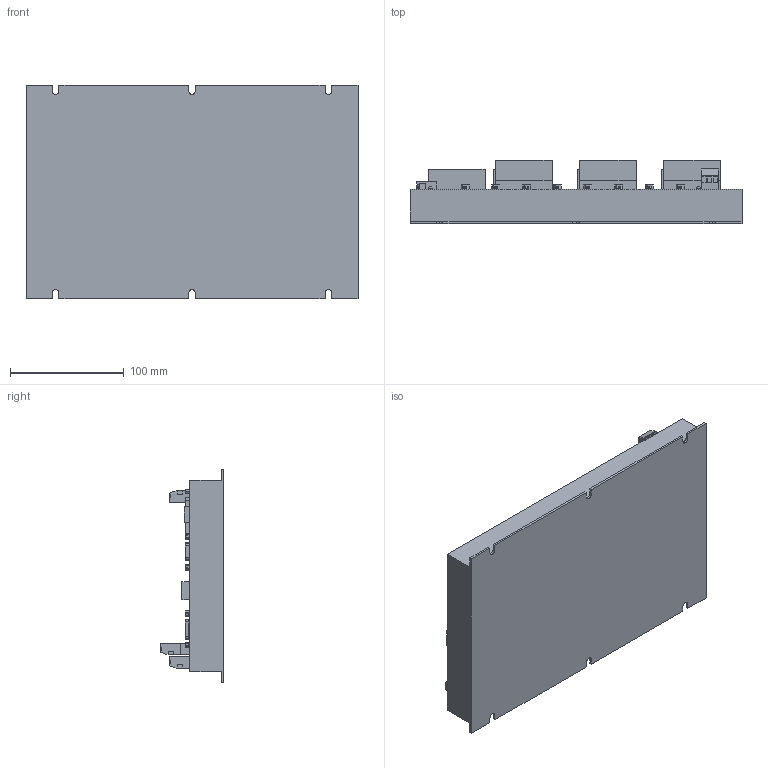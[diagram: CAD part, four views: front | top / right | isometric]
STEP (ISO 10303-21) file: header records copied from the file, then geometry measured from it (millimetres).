
FILE_DESCRIPTION (( 'STEP AP214' ), '1' );
FILE_NAME ('ZMC308.STEP', '2018-08-24T09:39:46', ( 'Microsoft' ), ( ' ' ), 'SwSTEP 2.0', 'SolidWorks 2014', '' );
FILE_SCHEMA (( 'AUTOMOTIVE_DESIGN' ));
Length unit declared in the file: millimetre
Products named in the file (11): U攫; 9渀-2齬-譫芛; 9渀-2齬-鼠芛; ZMC306-308-俋褲; ZMC308; 三连灯; 25渀-2齬-譫芛; 厙諳-傻; 傷赽-湮-3; 傷赽-湮-10; 腑
Assembly tree (26 placements, depth 3):
  ZMC308
    ZMC306-308-俋褲
    9渀-2齬-鼠芛
    9渀-2齬-譫芛
    U攫
    腑
    傷赽-湮-10  x7
    傷赽-湮-3
    厙諳-傻
    25渀-2齬-譫芛  x8
    三连灯
      腑  x3
Bounding box: 292 x 56 x 188 mm (x, y, z)
Volume: 1562850.1 mm3; surface area: 183664.8 mm2
Topology: 95 solids, 95 shells, 3394 faces, 8454 edges, 5632 vertices
Faces by surface type: plane 2304, cylinder 694, bspline 388, sphere 8
Entity records: 74245 total; most frequent: CARTESIAN_POINT 27999, ORIENTED_EDGE 9898, DIRECTION 7543, EDGE_CURVE 4949, LINE 3809, VECTOR 3809, VERTEX_POINT 3299, EDGE_LOOP 1956
